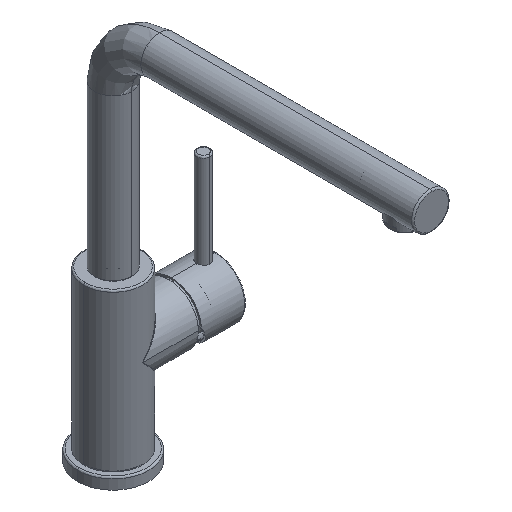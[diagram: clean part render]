
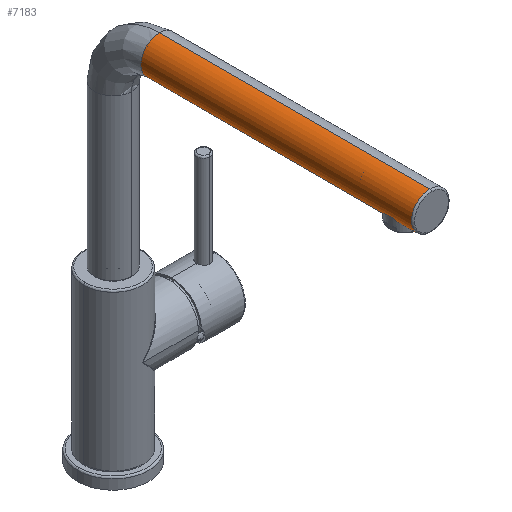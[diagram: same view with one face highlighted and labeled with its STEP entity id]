
A CAD part, isometric view. The second image highlights one B-rep face of the part: STEP entity #7183.
In plain terms, the highlighted cylindrical face has radius 14 mm (diameter 28 mm), a partial arc.
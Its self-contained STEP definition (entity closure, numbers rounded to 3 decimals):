
#5117=TRIMMED_CURVE($,#5819,(#132532),(#132533),.T.,.CARTESIAN.);
#5118=TRIMMED_CURVE($,#5820,(#132539),(#132540),.T.,.CARTESIAN.);
#5819=CIRCLE('',#114503,14.);
#5820=CIRCLE('',#114504,14.);
#6511=CYLINDRICAL_SURFACE('',#114444,14.);
#7183=ADVANCED_FACE('',(#13275),#6511,.T.);
#13275=FACE_OUTER_BOUND('',#19274,.T.);
#19274=EDGE_LOOP('',(#26102,#26103,#26104,#26105,#26106,#26107));
#26102=ORIENTED_EDGE('',*,*,#52448,.T.);
#26103=ORIENTED_EDGE('',*,*,#52452,.T.);
#26104=ORIENTED_EDGE('',*,*,#52451,.T.);
#26105=ORIENTED_EDGE('',*,*,#52459,.T.);
#26106=ORIENTED_EDGE('',*,*,#52450,.T.);
#26107=ORIENTED_EDGE('',*,*,#52449,.T.);
#52448=EDGE_CURVE('',#94074,#94075,#73685,.T.);
#52449=EDGE_CURVE('',#94076,#94074,#5117,.T.);
#52450=EDGE_CURVE('',#94077,#94076,#73686,.T.);
#52451=EDGE_CURVE('',#94079,#94078,#73687,.T.);
#52452=EDGE_CURVE('',#94075,#94079,#5118,.T.);
#52459=EDGE_CURVE('',#94078,#94077,#73691,.T.);
#73685=B_SPLINE_CURVE_WITH_KNOTS('',1,(#132529,#132530),.UNSPECIFIED.,.F.,
 .F.,(2,2),(-204.8,0.),.UNSPECIFIED.);
#73686=B_SPLINE_CURVE_WITH_KNOTS('',1,(#132534,#132535),.UNSPECIFIED.,.F.,
 .F.,(2,2),(-6.55,0.),.UNSPECIFIED.);
#73687=B_SPLINE_CURVE_WITH_KNOTS('',1,(#132536,#132537),.UNSPECIFIED.,.F.,
 .F.,(2,2),(-173.75,0.),.UNSPECIFIED.);
#73691=B_SPLINE_CURVE_WITH_KNOTS('',3,(#132588,#132589,#132590,#132591,
#132592,#132593,#132594,#132595,#132596,#132597,#132598,#132599,#132600,
#132601,#132602,#132603,#132604,#132605,#132606,#132607,#132608,#132609,
#132610,#132611,#132612,#132613,#132614,#132615,#132616,#132617,#132618,
#132619,#132620,#132621),.UNSPECIFIED.,.F.,.F.,(4,1,1,1,1,1,1,1,1,1,1,1,
1,1,1,1,1,1,1,1,1,1,1,1,1,1,1,1,1,1,1,4),(0.,1.346,2.691,
4.037,5.383,6.728,8.074,9.42,
10.765,12.111,13.457,14.803,16.148,
17.494,18.84,20.185,21.531,22.877,
24.222,25.568,26.914,28.259,29.605,
30.951,32.296,33.642,34.988,36.334,
37.679,39.025,40.371,41.716),
 .UNSPECIFIED.);
#94074=VERTEX_POINT('',#132409);
#94075=VERTEX_POINT('',#132410);
#94076=VERTEX_POINT('',#132411);
#94077=VERTEX_POINT('',#132412);
#94078=VERTEX_POINT('',#132413);
#94079=VERTEX_POINT('',#132414);
#114444=AXIS2_PLACEMENT_3D('',#129776,#120971,$);
#114503=AXIS2_PLACEMENT_3D($,#132531,#121030,#121031);
#114504=AXIS2_PLACEMENT_3D($,#132538,#121032,#121033);
#120971=DIRECTION('',(-1.,0.,0.));
#121030=DIRECTION('',(-1.,0.,0.));
#121031=DIRECTION('',(0.,-1.,0.));
#121032=DIRECTION('',(1.,0.,0.));
#121033=DIRECTION('',(0.,1.,0.));
#129776=CARTESIAN_POINT('',(137.4,151.,0.));
#132409=CARTESIAN_POINT('',(239.8,165.,0.));
#132410=CARTESIAN_POINT('',(35.,165.,0.));
#132411=CARTESIAN_POINT('',(239.8,137.,0.));
#132412=CARTESIAN_POINT('',(233.25,137.,0.));
#132413=CARTESIAN_POINT('',(208.75,137.,0.));
#132414=CARTESIAN_POINT('',(35.,137.,0.));
#132529=CARTESIAN_POINT('',(239.8,165.,0.));
#132530=CARTESIAN_POINT('',(35.,165.,0.));
#132531=CARTESIAN_POINT('',(239.8,151.,0.));
#132532=CARTESIAN_POINT('',(239.8,137.,0.));
#132533=CARTESIAN_POINT('',(239.8,165.,0.));
#132534=CARTESIAN_POINT('',(233.25,137.,0.));
#132535=CARTESIAN_POINT('',(239.8,137.,0.));
#132536=CARTESIAN_POINT('',(35.,137.,0.));
#132537=CARTESIAN_POINT('',(208.75,137.,0.));
#132538=CARTESIAN_POINT('',(35.,151.,0.));
#132539=CARTESIAN_POINT('',(35.,165.,0.));
#132540=CARTESIAN_POINT('',(35.,137.,0.));
#132588=CARTESIAN_POINT('',(208.75,137.,0.));
#132589=CARTESIAN_POINT('',(208.75,137.,0.359));
#132590=CARTESIAN_POINT('',(208.781,137.027,1.077));
#132591=CARTESIAN_POINT('',(208.925,137.153,2.16));
#132592=CARTESIAN_POINT('',(209.162,137.359,3.21));
#132593=CARTESIAN_POINT('',(209.476,137.631,4.195));
#132594=CARTESIAN_POINT('',(209.859,137.96,5.127));
#132595=CARTESIAN_POINT('',(210.34,138.369,6.069));
#132596=CARTESIAN_POINT('',(210.959,138.888,7.053));
#132597=CARTESIAN_POINT('',(211.769,139.552,8.095));
#132598=CARTESIAN_POINT('',(212.836,140.398,9.179));
#132599=CARTESIAN_POINT('',(214.11,141.35,10.172));
#132600=CARTESIAN_POINT('',(215.498,142.293,10.983));
#132601=CARTESIAN_POINT('',(216.917,143.117,11.58));
#132602=CARTESIAN_POINT('',(218.23,143.709,11.956));
#132603=CARTESIAN_POINT('',(219.457,144.083,12.173));
#132604=CARTESIAN_POINT('',(220.689,144.252,12.266));
#132605=CARTESIAN_POINT('',(221.885,144.198,12.237));
#132606=CARTESIAN_POINT('',(223.038,143.952,12.098));
#132607=CARTESIAN_POINT('',(224.217,143.524,11.842));
#132608=CARTESIAN_POINT('',(225.449,142.916,11.441));
#132609=CARTESIAN_POINT('',(226.738,142.138,10.856));
#132610=CARTESIAN_POINT('',(228.01,141.262,10.084));
#132611=CARTESIAN_POINT('',(229.216,140.357,9.129));
#132612=CARTESIAN_POINT('',(230.253,139.535,8.07));
#132613=CARTESIAN_POINT('',(231.063,138.869,7.021));
#132614=CARTESIAN_POINT('',(231.678,138.354,6.037));
#132615=CARTESIAN_POINT('',(232.154,137.949,5.098));
#132616=CARTESIAN_POINT('',(232.532,137.624,4.172));
#132617=CARTESIAN_POINT('',(232.842,137.356,3.193));
#132618=CARTESIAN_POINT('',(233.076,137.152,2.148));
#132619=CARTESIAN_POINT('',(233.219,137.027,1.07));
#132620=CARTESIAN_POINT('',(233.25,137.,0.356));
#132621=CARTESIAN_POINT('',(233.25,137.,0.));
